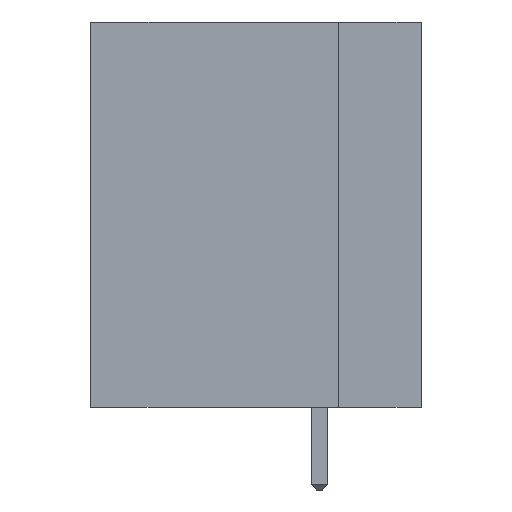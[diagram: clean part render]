
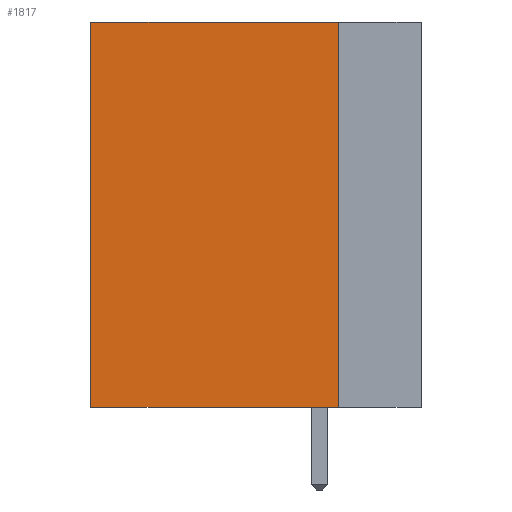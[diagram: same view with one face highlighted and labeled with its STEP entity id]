
A CAD part, left-side view. The second image highlights one B-rep face of the part: STEP entity #1817.
In plain terms, the highlighted planar face has unit normal (-1, 0, 0).
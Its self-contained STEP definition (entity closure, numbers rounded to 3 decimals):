
#137 = PLANE('',#138);
#138 = AXIS2_PLACEMENT_3D('',#139,#140,#141);
#139 = CARTESIAN_POINT('',(0.,0.,0.));
#140 = DIRECTION('',(0.,-1.,0.));
#141 = DIRECTION('',(0.,0.,-1.));
#314 = EDGE_CURVE('',#315,#317,#319,.T.);
#315 = VERTEX_POINT('',#316);
#316 = CARTESIAN_POINT('',(0.,0.,0.));
#317 = VERTEX_POINT('',#318);
#318 = CARTESIAN_POINT('',(0.,0.,9.));
#319 = SURFACE_CURVE('',#320,(#324,#331),.PCURVE_S1.);
#320 = LINE('',#321,#322);
#321 = CARTESIAN_POINT('',(0.,0.,0.));
#322 = VECTOR('',#323,1.);
#323 = DIRECTION('',(0.,0.,1.));
#324 = PCURVE('',#137,#325);
#325 = DEFINITIONAL_REPRESENTATION('',(#326),#330);
#326 = LINE('',#327,#328);
#327 = CARTESIAN_POINT('',(0.,0.));
#328 = VECTOR('',#329,1.);
#329 = DIRECTION('',(-1.,0.));
#330 = ( GEOMETRIC_REPRESENTATION_CONTEXT(2) 
PARAMETRIC_REPRESENTATION_CONTEXT() REPRESENTATION_CONTEXT('2D SPACE',''
  ) );
#331 = PCURVE('',#332,#337);
#332 = PLANE('',#333);
#333 = AXIS2_PLACEMENT_3D('',#334,#335,#336);
#334 = CARTESIAN_POINT('',(0.,14.,0.));
#335 = DIRECTION('',(1.,0.,0.));
#336 = DIRECTION('',(0.,-1.,0.));
#337 = DEFINITIONAL_REPRESENTATION('',(#338),#342);
#338 = LINE('',#339,#340);
#339 = CARTESIAN_POINT('',(14.,0.));
#340 = VECTOR('',#341,1.);
#341 = DIRECTION('',(0.,-1.));
#342 = ( GEOMETRIC_REPRESENTATION_CONTEXT(2) 
PARAMETRIC_REPRESENTATION_CONTEXT() REPRESENTATION_CONTEXT('2D SPACE',''
  ) );
#360 = PLANE('',#361);
#361 = AXIS2_PLACEMENT_3D('',#362,#363,#364);
#362 = CARTESIAN_POINT('',(0.,0.,0.));
#363 = DIRECTION('',(0.,0.,-1.));
#364 = DIRECTION('',(0.,1.,0.));
#526 = PLANE('',#527);
#527 = AXIS2_PLACEMENT_3D('',#528,#529,#530);
#528 = CARTESIAN_POINT('',(0.,0.,9.));
#529 = DIRECTION('',(0.,0.,-1.));
#530 = DIRECTION('',(0.,1.,0.));
#1817 = ADVANCED_FACE('',(#1818),#332,.F.);
#1818 = FACE_BOUND('',#1819,.F.);
#1819 = EDGE_LOOP('',(#1820,#1850,#1871,#1872));
#1820 = ORIENTED_EDGE('',*,*,#1821,.T.);
#1821 = EDGE_CURVE('',#1822,#1824,#1826,.T.);
#1822 = VERTEX_POINT('',#1823);
#1823 = CARTESIAN_POINT('',(0.,14.,0.));
#1824 = VERTEX_POINT('',#1825);
#1825 = CARTESIAN_POINT('',(0.,14.,9.));
#1826 = SURFACE_CURVE('',#1827,(#1831,#1838),.PCURVE_S1.);
#1827 = LINE('',#1828,#1829);
#1828 = CARTESIAN_POINT('',(0.,14.,0.));
#1829 = VECTOR('',#1830,1.);
#1830 = DIRECTION('',(0.,0.,1.));
#1831 = PCURVE('',#332,#1832);
#1832 = DEFINITIONAL_REPRESENTATION('',(#1833),#1837);
#1833 = LINE('',#1834,#1835);
#1834 = CARTESIAN_POINT('',(0.,0.));
#1835 = VECTOR('',#1836,1.);
#1836 = DIRECTION('',(0.,-1.));
#1837 = ( GEOMETRIC_REPRESENTATION_CONTEXT(2) 
PARAMETRIC_REPRESENTATION_CONTEXT() REPRESENTATION_CONTEXT('2D SPACE',''
  ) );
#1838 = PCURVE('',#1839,#1844);
#1839 = PLANE('',#1840);
#1840 = AXIS2_PLACEMENT_3D('',#1841,#1842,#1843);
#1841 = CARTESIAN_POINT('',(56.,14.,0.));
#1842 = DIRECTION('',(0.,1.,0.));
#1843 = DIRECTION('',(0.,0.,1.));
#1844 = DEFINITIONAL_REPRESENTATION('',(#1845),#1849);
#1845 = LINE('',#1846,#1847);
#1846 = CARTESIAN_POINT('',(0.,-56.));
#1847 = VECTOR('',#1848,1.);
#1848 = DIRECTION('',(1.,0.));
#1849 = ( GEOMETRIC_REPRESENTATION_CONTEXT(2) 
PARAMETRIC_REPRESENTATION_CONTEXT() REPRESENTATION_CONTEXT('2D SPACE',''
  ) );
#1850 = ORIENTED_EDGE('',*,*,#1851,.T.);
#1851 = EDGE_CURVE('',#1824,#317,#1852,.T.);
#1852 = SURFACE_CURVE('',#1853,(#1857,#1864),.PCURVE_S1.);
#1853 = LINE('',#1854,#1855);
#1854 = CARTESIAN_POINT('',(0.,14.,9.));
#1855 = VECTOR('',#1856,1.);
#1856 = DIRECTION('',(0.,-1.,0.));
#1857 = PCURVE('',#332,#1858);
#1858 = DEFINITIONAL_REPRESENTATION('',(#1859),#1863);
#1859 = LINE('',#1860,#1861);
#1860 = CARTESIAN_POINT('',(0.,-9.));
#1861 = VECTOR('',#1862,1.);
#1862 = DIRECTION('',(1.,0.));
#1863 = ( GEOMETRIC_REPRESENTATION_CONTEXT(2) 
PARAMETRIC_REPRESENTATION_CONTEXT() REPRESENTATION_CONTEXT('2D SPACE',''
  ) );
#1864 = PCURVE('',#526,#1865);
#1865 = DEFINITIONAL_REPRESENTATION('',(#1866),#1870);
#1866 = LINE('',#1867,#1868);
#1867 = CARTESIAN_POINT('',(14.,0.));
#1868 = VECTOR('',#1869,1.);
#1869 = DIRECTION('',(-1.,0.));
#1870 = ( GEOMETRIC_REPRESENTATION_CONTEXT(2) 
PARAMETRIC_REPRESENTATION_CONTEXT() REPRESENTATION_CONTEXT('2D SPACE',''
  ) );
#1871 = ORIENTED_EDGE('',*,*,#314,.F.);
#1872 = ORIENTED_EDGE('',*,*,#1873,.F.);
#1873 = EDGE_CURVE('',#1822,#315,#1874,.T.);
#1874 = SURFACE_CURVE('',#1875,(#1879,#1886),.PCURVE_S1.);
#1875 = LINE('',#1876,#1877);
#1876 = CARTESIAN_POINT('',(0.,14.,0.));
#1877 = VECTOR('',#1878,1.);
#1878 = DIRECTION('',(0.,-1.,0.));
#1879 = PCURVE('',#332,#1880);
#1880 = DEFINITIONAL_REPRESENTATION('',(#1881),#1885);
#1881 = LINE('',#1882,#1883);
#1882 = CARTESIAN_POINT('',(0.,0.));
#1883 = VECTOR('',#1884,1.);
#1884 = DIRECTION('',(1.,0.));
#1885 = ( GEOMETRIC_REPRESENTATION_CONTEXT(2) 
PARAMETRIC_REPRESENTATION_CONTEXT() REPRESENTATION_CONTEXT('2D SPACE',''
  ) );
#1886 = PCURVE('',#360,#1887);
#1887 = DEFINITIONAL_REPRESENTATION('',(#1888),#1892);
#1888 = LINE('',#1889,#1890);
#1889 = CARTESIAN_POINT('',(14.,0.));
#1890 = VECTOR('',#1891,1.);
#1891 = DIRECTION('',(-1.,0.));
#1892 = ( GEOMETRIC_REPRESENTATION_CONTEXT(2) 
PARAMETRIC_REPRESENTATION_CONTEXT() REPRESENTATION_CONTEXT('2D SPACE',''
  ) );
